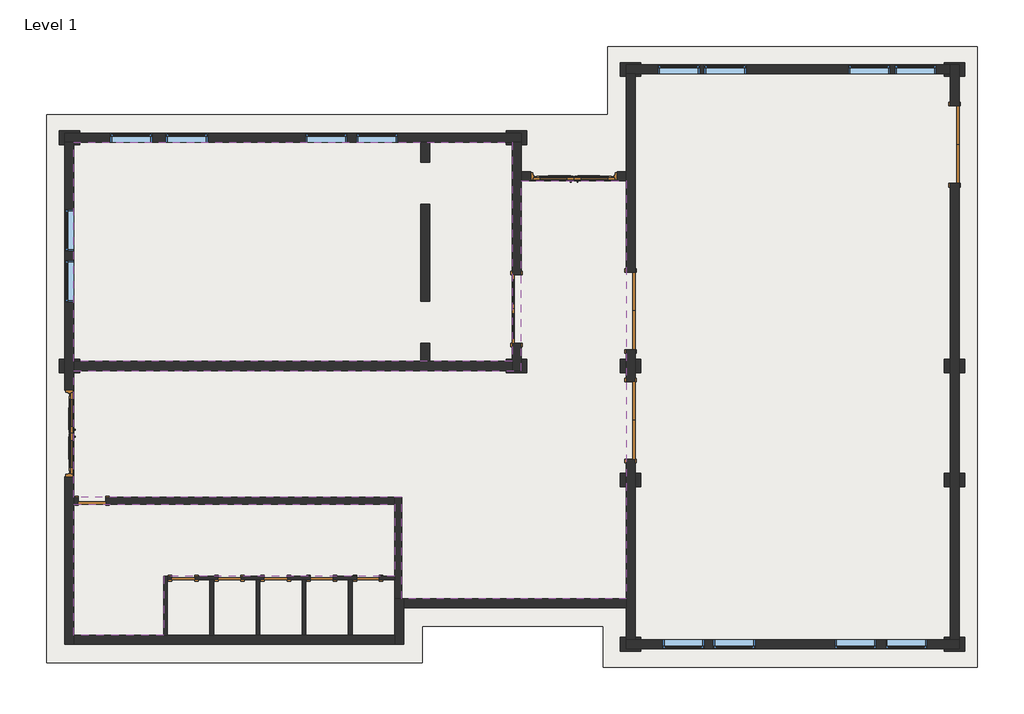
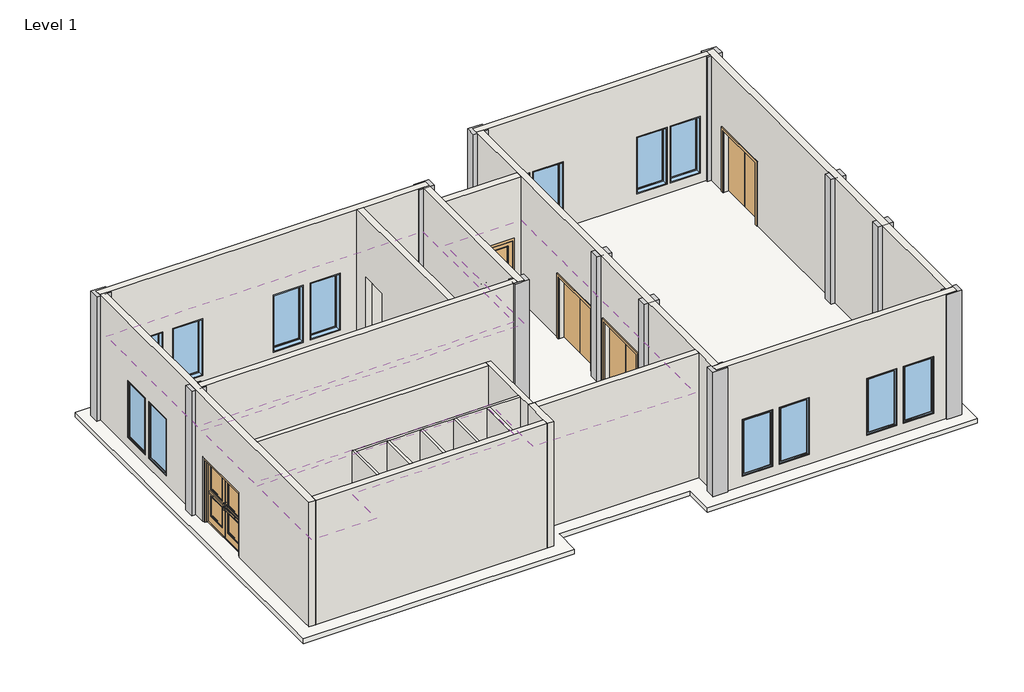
# One storey: 21 walls, 14 windows, 12 columns, 12 doors, 3 coverings, 1 slab.
"""IFC4 building model written with IfcOpenShell, lengths in millimetres."""

from ifc_helpers import new_model, si_unit, frame, origin, origin_with_axes, place, context, project, spatial, polyline, outline, extrude, faceted_brep, transform, mapped, element, save
from components import m_concrete_rectangular_column_300_x_450mm_c5d8a032, m_door_double_flush_panel_1700_x_2000mm_deeb3825, m_door_double_glass_1500_x_2000mm_770e8f3f, m_door_exterior_double_two_lite_1800_x_2000mm_59306b6d, m_door_exterior_double_two_lite_1800_x_2000mm_29a14667, m_door_exterior_double_two_lite_1800_x_2000mm_bafab08d, m_single_flush_0762_x_2032mm_f712f77f, m_single_flush_500_x_1800_40eb233f, m_fixed_0915_x_1830mm_5d6e8bc1

model = new_model("IFC4")

# Units and contexts
model_context = context("Model", 3, world=origin())
ifc_project = project(units=[si_unit("LENGTHUNIT", "METRE", prefix="MILLI")], contexts=[model_context])

# Site, building, storey
site = spatial("IfcSite", under=ifc_project)
building = spatial("IfcBuilding", under=site)
storey = spatial("IfcBuildingStorey", under=building, Name="Level 1", Elevation=0.0)

# Columns
placement = place(None, origin())
m_concrete_rectangular_column_300_x_450mm_shape = m_concrete_rectangular_column_300_x_450mm_c5d8a032(model_context)
element("IfcColumn", 1, ObjectType="M_Concrete-Rectangular-Column : 300 x 450mm", at=placement, inside=storey, context=model_context, shape_type="MappedRepresentation", body=[
    mapped(m_concrete_rectangular_column_300_x_450mm_shape, transform((-10540.3092365, 4276.1646731, 0.0), x_axis=(0.0, 1.0, 0.0), y_axis=(-1.0, 0.0, 0.0), z_axis=(0.0, 0.0, 1.0))),
])
element("IfcColumn", 2, ObjectType="M_Concrete-Rectangular-Column : 300 x 450mm", at=placement, inside=storey, context=model_context, shape_type="MappedRepresentation", body=[
    mapped(m_concrete_rectangular_column_300_x_450mm_shape, transform((-740.3092365, 4276.1646731, 0.0), x_axis=(0.0, 1.0, 0.0), y_axis=(-1.0, 0.0, 0.0), z_axis=(0.0, 0.0, 1.0))),
])
element("IfcColumn", 3, ObjectType="M_Concrete-Rectangular-Column : 300 x 450mm", at=placement, inside=storey, context=model_context, shape_type="MappedRepresentation", body=[
    mapped(m_concrete_rectangular_column_300_x_450mm_shape, transform((-10540.3092365, -723.8353269, 0.0), x_axis=(0.0, 1.0000000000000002, 0.0), y_axis=(-1.0000000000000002, 0.0, 0.0), z_axis=(0.0, 0.0, 1.0))),
])
element("IfcColumn", 4, ObjectType="M_Concrete-Rectangular-Column : 300 x 450mm", at=placement, inside=storey, context=model_context, shape_type="MappedRepresentation", body=[
    mapped(m_concrete_rectangular_column_300_x_450mm_shape, transform((-740.3092365, -723.8353269, 0.0), x_axis=(0.0, 1.0000000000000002, 0.0), y_axis=(-1.0000000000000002, 0.0, 0.0), z_axis=(0.0, 0.0, 1.0))),
])
element("IfcColumn", 5, ObjectType="M_Concrete-Rectangular-Column : 300 x 450mm", at=placement, inside=storey, context=model_context, shape_type="MappedRepresentation", body=[
    mapped(m_concrete_rectangular_column_300_x_450mm_shape, transform((1759.6907635, -6823.8353269, 0.0), x_axis=(0.0, 1.0000000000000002, 0.0), y_axis=(-1.0000000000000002, 0.0, 0.0), z_axis=(0.0, 0.0, 1.0))),
])
element("IfcColumn", 6, ObjectType="M_Concrete-Rectangular-Column : 300 x 450mm", at=placement, inside=storey, context=model_context, shape_type="MappedRepresentation", body=[
    mapped(m_concrete_rectangular_column_300_x_450mm_shape, transform((1759.6907635, -723.8353269, 0.0), x_axis=(0.0, 1.0000000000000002, 0.0), y_axis=(-1.0000000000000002, 0.0, 0.0), z_axis=(0.0, 0.0, 1.0))),
])
element("IfcColumn", 7, ObjectType="M_Concrete-Rectangular-Column : 300 x 450mm", at=placement, inside=storey, context=model_context, shape_type="MappedRepresentation", body=[
    mapped(m_concrete_rectangular_column_300_x_450mm_shape, transform((8859.6907635, -723.8353269, 0.0), x_axis=(0.0, 1.0000000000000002, 0.0), y_axis=(-1.0000000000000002, 0.0, 0.0), z_axis=(0.0, 0.0, 1.0))),
])
element("IfcColumn", 8, ObjectType="M_Concrete-Rectangular-Column : 300 x 450mm", at=placement, inside=storey, context=model_context, shape_type="MappedRepresentation", body=[
    mapped(m_concrete_rectangular_column_300_x_450mm_shape, transform((8859.6907635, -6823.8353269, 0.0), x_axis=(0.0, 1.0000000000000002, 0.0), y_axis=(-1.0000000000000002, 0.0, 0.0), z_axis=(0.0, 0.0, 1.0))),
])
element("IfcColumn", 9, ObjectType="M_Concrete-Rectangular-Column : 300 x 450mm", at=placement, inside=storey, context=model_context, shape_type="MappedRepresentation", body=[
    mapped(m_concrete_rectangular_column_300_x_450mm_shape, transform((8859.6907635, -3223.8353269, 0.0), x_axis=(0.0, 1.0000000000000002, 0.0), y_axis=(-1.0000000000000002, 0.0, 0.0), z_axis=(0.0, 0.0, 1.0))),
])
element("IfcColumn", 10, ObjectType="M_Concrete-Rectangular-Column : 300 x 450mm", at=placement, inside=storey, context=model_context, shape_type="MappedRepresentation", body=[
    mapped(m_concrete_rectangular_column_300_x_450mm_shape, transform((1759.6907635, -3223.8353269, 0.0), x_axis=(0.0, 1.0000000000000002, 0.0), y_axis=(-1.0000000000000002, 0.0, 0.0), z_axis=(0.0, 0.0, 1.0))),
])
element("IfcColumn", 11, ObjectType="M_Concrete-Rectangular-Column : 300 x 450mm", at=placement, inside=storey, context=model_context, shape_type="MappedRepresentation", body=[
    mapped(m_concrete_rectangular_column_300_x_450mm_shape, transform((1759.6907635, 5776.1646731, 0.0), x_axis=(0.0, 1.0000000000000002, 0.0), y_axis=(-1.0000000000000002, 0.0, 0.0), z_axis=(0.0, 0.0, 1.0))),
])
element("IfcColumn", 12, ObjectType="M_Concrete-Rectangular-Column : 300 x 450mm", at=placement, inside=storey, context=model_context, shape_type="MappedRepresentation", body=[
    mapped(m_concrete_rectangular_column_300_x_450mm_shape, transform((8859.6907635, 5776.1646731, 0.0), x_axis=(0.0, 1.0000000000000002, 0.0), y_axis=(-1.0000000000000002, 0.0, 0.0), z_axis=(0.0, 0.0, 1.0))),
])

# Coverings
element("IfcCovering", 13, ObjectType="600 x 600mm Grid", at=placement, inside=storey, context=model_context, shape_type="SweptSolid", body=[
    extrude(outline(polyline([(-10440.3092365, 4176.1646731), (-840.3092365, 4176.1646731), (-840.3092365, -623.8353269), (-10440.3092365, -623.8353269), (-10440.3092365, 4176.1646731)])), frame((0.0, 0.0, 2600.0), z_axis=(0.0, 0.0, 1.0), x_axis=(1.0, 0.0, 0.0)), (0.0, 0.0, 1.0), 52.0),
])
element("IfcCovering", 14, ObjectType="600 x 600mm Grid", at=placement, inside=storey, context=model_context, shape_type="SweptSolid", body=[
    extrude(outline(polyline([(-10440.3092365, -823.8353269), (-640.3092365, -823.8353269), (-640.3092365, 3331.1646731), (1659.6907635, 3331.1646731), (1659.6907635, -5823.8353269), (-3261.8092365, -5823.8353269), (-3261.8092365, -3599.1353269), (-10440.3092365, -3599.1353269), (-10440.3092365, -823.8353269)])), frame((0.0, 0.0, 2600.0), z_axis=(0.0, 0.0, 1.0), x_axis=(1.0, 0.0, 0.0)), (0.0, 0.0, 1.0), 52.0),
])
element("IfcCovering", 15, ObjectType="600 x 600mm Grid", at=placement, inside=storey, context=model_context, shape_type="SweptSolid", body=[
    extrude(outline(polyline([(-8472.3092365, -6623.8353269), (-10440.3092365, -6623.8353269), (-10440.3092365, -3749.1353269), (-3411.8092365, -3749.1353269), (-3411.8092365, -5334.3353269), (-8472.3092365, -5334.3353269), (-8472.3092365, -6623.8353269)])), frame((0.0, 0.0, 2600.0), z_axis=(0.0, 0.0, 1.0), x_axis=(1.0, 0.0, 0.0)), (0.0, 0.0, 1.0), 52.0),
])

# Doors
m_door_double_flush_panel_1700_x_2000mm_shape = m_door_double_flush_panel_1700_x_2000mm_deeb3825(model_context)
element("IfcDoor", 16, ObjectType="M_Door-Double-Flush_Panel : 1700 x 2000mm", at=placement, inside=storey, context=model_context, shape_type="MappedRepresentation", body=[
    mapped(m_door_double_flush_panel_1700_x_2000mm_shape, transform((1759.6907635, -1918.8353269, 0.0), x_axis=(0.0, -1.0, 0.0), y_axis=(1.0, 0.0, 0.0), z_axis=(0.0, 0.0, 1.0))),
])
element("IfcDoor", 17, ObjectType="M_Door-Double-Flush_Panel : 1700 x 2000mm", at=placement, inside=storey, context=model_context, shape_type="MappedRepresentation", body=[
    mapped(m_door_double_flush_panel_1700_x_2000mm_shape, transform((1759.6907635, 481.1646731, 0.0), x_axis=(0.0, -1.0, 0.0), y_axis=(1.0, 0.0, 0.0), z_axis=(0.0, 0.0, 1.0))),
])
element("IfcDoor", 18, ObjectType="M_Door-Double-Flush_Panel : 1700 x 2000mm", at=placement, inside=storey, context=model_context, shape_type="MappedRepresentation", body=[
    mapped(m_door_double_flush_panel_1700_x_2000mm_shape, transform((8859.6907635, 4126.1646731, 0.0), x_axis=(0.0, -1.0, 0.0), y_axis=(1.0, 0.0, 0.0), z_axis=(0.0, 0.0, 1.0))),
])
m_door_double_glass_1500_x_2000mm_shape = m_door_double_glass_1500_x_2000mm_770e8f3f(model_context)
element("IfcDoor", 19, ObjectType="M_Door-Double-Glass : 1500 x 2000mm", at=placement, inside=storey, context=model_context, shape_type="MappedRepresentation", body=[
    mapped(m_door_double_glass_1500_x_2000mm_shape, transform((-737.9279865, 526.1646731, 0.0), x_axis=(0.0, 1.0, 0.0), y_axis=(-1.0, 0.0, 0.0), z_axis=(0.0, 0.0, 1.0))),
])
m_door_exterior_double_two_lite_1800_x_2000mm_shape = m_door_exterior_double_two_lite_1800_x_2000mm_59306b6d(model_context)
m_door_exterior_double_two_lite_1800_x_2000mm_2_shape = m_door_exterior_double_two_lite_1800_x_2000mm_29a14667(model_context)
m_door_exterior_double_two_lite_1800_x_2000mm_3_shape = m_door_exterior_double_two_lite_1800_x_2000mm_bafab08d(model_context)
element("IfcDoor", 20, ObjectType="M_Door-Exterior-Double-Two_Lite : 1800 x 2000mm", at=placement, inside=storey, context=model_context, shape_type="MappedRepresentation", body=[
    mapped(m_door_exterior_double_two_lite_1800_x_2000mm_shape, transform((-10546.6592365, -2201.9603269, 0.0), x_axis=(0.0, -1.0, 0.0), y_axis=(1.0, 0.0, 0.0), z_axis=(0.0, 0.0, 1.0))),
    mapped(m_door_exterior_double_two_lite_1800_x_2000mm_2_shape, transform((-10546.6592365, -2201.9603269, 0.0), x_axis=(0.0, -1.0, 0.0), y_axis=(1.0, 0.0, 0.0), z_axis=(0.0, 0.0, 1.0))),
    mapped(m_door_exterior_double_two_lite_1800_x_2000mm_3_shape, transform((-10546.6592365, -2201.9603269, 0.0), x_axis=(0.0, -1.0, 0.0), y_axis=(1.0, 0.0, 0.0), z_axis=(0.0, 0.0, 1.0))),
])
element("IfcDoor", 21, ObjectType="M_Door-Exterior-Double-Two_Lite : 1800 x 2000mm", at=placement, inside=storey, context=model_context, shape_type="MappedRepresentation", body=[
    mapped(m_door_exterior_double_two_lite_1800_x_2000mm_shape, transform((519.2157635, 3437.5146731, 0.0), x_axis=(-1.0, 0.0, 0.0), y_axis=(0.0, -1.0, 0.0), z_axis=(0.0, 0.0, 1.0))),
    mapped(m_door_exterior_double_two_lite_1800_x_2000mm_2_shape, transform((519.2157635, 3437.5146731, 0.0), x_axis=(-1.0, 0.0, 0.0), y_axis=(0.0, -1.0, 0.0), z_axis=(0.0, 0.0, 1.0))),
    mapped(m_door_exterior_double_two_lite_1800_x_2000mm_3_shape, transform((519.2157635, 3437.5146731, 0.0), x_axis=(-1.0, 0.0, 0.0), y_axis=(0.0, -1.0, 0.0), z_axis=(0.0, 0.0, 1.0))),
])
m_single_flush_0762_x_2032mm_shape = m_single_flush_0762_x_2032mm_f712f77f(model_context)
element("IfcDoor", 22, ObjectType="M_Single-Flush : 0762 x 2032mm", at=placement, inside=storey, context=model_context, shape_type="MappedRepresentation", body=[
    mapped(m_single_flush_0762_x_2032mm_shape, transform((-10040.3092365, -3674.1353269, 0.0), x_axis=(-1.0, 0.0, 0.0), y_axis=(0.0, -1.0, 0.0), z_axis=(0.0, 0.0, 1.0))),
])
m_single_flush_500_x_1800_shape = m_single_flush_500_x_1800_40eb233f(model_context)
element("IfcDoor", 23, ObjectType="M_Single-Flush : 500 x 1800", at=placement, inside=storey, context=model_context, shape_type="MappedRepresentation", body=[
    mapped(m_single_flush_500_x_1800_shape, transform((-3994.9092365, -5373.8353269, 0.0), x_axis=(-1.0, 0.0, 0.0), y_axis=(0.0, -1.0, 0.0), z_axis=(0.0, 0.0, 1.0))),
])
element("IfcDoor", 24, ObjectType="M_Single-Flush : 500 x 1800", at=placement, inside=storey, context=model_context, shape_type="MappedRepresentation", body=[
    mapped(m_single_flush_500_x_1800_shape, transform((-5007.0092365, -5373.8353269, 0.0), x_axis=(-1.0, 0.0, 0.0), y_axis=(0.0, -1.0, 0.0), z_axis=(0.0, 0.0, 1.0))),
])
element("IfcDoor", 25, ObjectType="M_Single-Flush : 500 x 1800", at=placement, inside=storey, context=model_context, shape_type="MappedRepresentation", body=[
    mapped(m_single_flush_500_x_1800_shape, transform((-6019.1092365, -5373.8353269, 0.0), x_axis=(-1.0, 0.0, 0.0), y_axis=(0.0, -1.0, 0.0), z_axis=(0.0, 0.0, 1.0))),
])
element("IfcDoor", 26, ObjectType="M_Single-Flush : 500 x 1800", at=placement, inside=storey, context=model_context, shape_type="MappedRepresentation", body=[
    mapped(m_single_flush_500_x_1800_shape, transform((-7031.2092365, -5373.8353269, 0.0), x_axis=(-1.0, 0.0, 0.0), y_axis=(0.0, -1.0, 0.0), z_axis=(0.0, 0.0, 1.0))),
])
element("IfcDoor", 27, ObjectType="M_Single-Flush : 500 x 1800", at=placement, inside=storey, context=model_context, shape_type="MappedRepresentation", body=[
    mapped(m_single_flush_500_x_1800_shape, transform((-8043.3092365, -5373.8353269, 0.0), x_axis=(-1.0, 0.0, 0.0), y_axis=(0.0, -1.0, 0.0), z_axis=(0.0, 0.0, 1.0))),
])

# Slab
element("IfcSlab", 28, ObjectType="Generic 150mm", at=placement, inside=storey, context=model_context, shape_type="SweptSolid", body=[
    extrude(outline(polyline([(9359.6907635, -7323.8353269), (1159.6907635, -7323.8353269), (1159.6907635, -6423.8353269), (-2811.8092365, -6423.8353269), (-2811.8092365, -7223.8353269), (-11040.3092365, -7223.8353269), (-11040.3092365, 4776.1646731), (1259.6907635, 4776.1646731), (1259.6907635, 6276.1646731), (9359.6907635, 6276.1646731), (9359.6907635, -7323.8353269)])), frame((0.0, 0.0, -150.0), z_axis=(0.0, 0.0, 1.0), x_axis=(1.0, 0.0, 0.0)), (0.0, 0.0, 1.0), 150.0),
])

# Walls
element("IfcWall", 29, ObjectType="Generic - 150", at=placement, inside=storey, context=model_context, shape_type="Brep", body=[
    faceted_brep([(-3261.8092365, -5823.8353269, 0.0), (-3261.8092365, -3599.1353269, 0.0), (-3261.8092365, -3599.1353269, 4000.0), (-3261.8092365, -5823.8353269, 4000.0), (-3411.8092365, -5823.8353269, 0.0), (-3411.8092365, -5823.8353269, 4000.0), (-3411.8092365, -5413.3353269, 4000.0), (-3411.8092365, -5334.3353269, 4000.0), (-3411.8092365, -3749.1353269, 4000.0), (-3411.8092365, -3599.1353269, 4000.0), (-3411.8092365, -3599.1353269, 0.0), (-3411.8092365, -3749.1353269, 0.0), (-3411.8092365, -5334.3353269, 0.0), (-3411.8092365, -5413.3353269, 0.0)], [[[0, 1, 2, 3]], [[4, 5, 6, 7, 8, 9, 10, 11, 12, 13]], [[1, 0, 4, 13, 12, 11, 10]], [[3, 2, 9, 8, 7, 6, 5]], [[2, 1, 10, 9]], [[0, 3, 5, 4]]]),
])
element("IfcWall", 30, ObjectType="Generic - 150", at=placement, inside=storey, context=model_context, shape_type="SweptSolid", body=[
    extrude(outline(polyline([(0.0, -10440.3092365), (0.0, -10340.3092365), (2032.0, -10340.3092365), (2032.0, -9740.3092365), (0.0, -9740.3092365), (0.0, -3411.8092365), (4000.0, -3411.8092365), (4000.0, -10440.3092365), (0.0, -10440.3092365)])), frame((0.0, -3749.1353269, 0.0), z_axis=(0.0, 1.0, 0.0), x_axis=(0.0, 0.0, 1.0)), (0.0, 0.0, 1.0), 150.0),
])
element("IfcWall", 31, ObjectType="Generic - 200mm", at=placement, inside=storey, context=model_context, shape_type="Brep", body=[
    faceted_brep([(-10640.3092365, 4176.1646731, 0.0), (-10440.3092365, 4176.1646731, 0.0), (-2840.3092365, 4176.1646731, 0.0), (-2640.3092365, 4176.1646731, 0.0), (-840.3092365, 4176.1646731, 0.0), (-640.3092365, 4176.1646731, 0.0), (-640.3092365, 4176.1646731, 4000.0), (-840.3092365, 4176.1646731, 4000.0), (-2640.3092365, 4176.1646731, 4000.0), (-2840.3092365, 4176.1646731, 4000.0), (-10440.3092365, 4176.1646731, 4000.0), (-10640.3092365, 4176.1646731, 4000.0), (-9640.3092365, 4176.1646731, 305.0), (-9640.3092365, 4176.1646731, 2135.0), (-8725.3092365, 4176.1646731, 2135.0), (-8725.3092365, 4176.1646731, 305.0), (-8425.3092365, 4176.1646731, 305.0), (-8425.3092365, 4176.1646731, 2135.0), (-7510.3092365, 4176.1646731, 2135.0), (-7510.3092365, 4176.1646731, 305.0), (-4255.3092365, 4176.1646731, 305.0), (-4255.3092365, 4176.1646731, 2135.0), (-3340.3092365, 4176.1646731, 2135.0), (-3340.3092365, 4176.1646731, 305.0), (-5370.3092365, 4176.1646731, 305.0), (-5370.3092365, 4176.1646731, 2135.0), (-4455.3092365, 4176.1646731, 2135.0), (-4455.3092365, 4176.1646731, 305.0), (-10640.3092365, 4376.1646731, 0.0), (-10640.3092365, 4376.1646731, 4000.0), (-640.3092365, 4376.1646731, 4000.0), (-640.3092365, 4376.1646731, 0.0), (-9640.3092365, 4376.1646731, 305.0), (-8725.3092365, 4376.1646731, 305.0), (-8725.3092365, 4376.1646731, 2135.0), (-9640.3092365, 4376.1646731, 2135.0), (-8425.3092365, 4376.1646731, 305.0), (-7510.3092365, 4376.1646731, 305.0), (-7510.3092365, 4376.1646731, 2135.0), (-8425.3092365, 4376.1646731, 2135.0), (-4255.3092365, 4376.1646731, 305.0), (-3340.3092365, 4376.1646731, 305.0), (-3340.3092365, 4376.1646731, 2135.0), (-4255.3092365, 4376.1646731, 2135.0), (-5370.3092365, 4376.1646731, 305.0), (-4455.3092365, 4376.1646731, 305.0), (-4455.3092365, 4376.1646731, 2135.0), (-5370.3092365, 4376.1646731, 2135.0)], [[[0, 1, 2, 3, 4, 5, 6, 7, 8, 9, 10, 11], [12, 13, 14, 15], [16, 17, 18, 19], [20, 21, 22, 23], [24, 25, 26, 27]], [[28, 29, 30, 31], [32, 33, 34, 35], [36, 37, 38, 39], [40, 41, 42, 43], [44, 45, 46, 47]], [[5, 4, 3, 2, 1, 0, 28, 31]], [[11, 10, 9, 8, 7, 6, 30, 29]], [[6, 5, 31, 30]], [[0, 11, 29, 28]], [[13, 12, 32, 35]], [[14, 13, 35, 34]], [[15, 14, 34, 33]], [[12, 15, 33, 32]], [[17, 16, 36, 39]], [[18, 17, 39, 38]], [[19, 18, 38, 37]], [[16, 19, 37, 36]], [[21, 20, 40, 43]], [[22, 21, 43, 42]], [[23, 22, 42, 41]], [[20, 23, 41, 40]], [[25, 24, 44, 47]], [[26, 25, 47, 46]], [[27, 26, 46, 45]], [[24, 27, 45, 44]]]),
])
element("IfcWall", 32, ObjectType="Generic - 200mm", at=placement, inside=storey, context=model_context, shape_type="Brep", body=[
    faceted_brep([(-840.3092365, 4176.1646731, 0.0), (-840.3092365, 1276.1646731, 0.0), (-840.3092365, 1276.1646731, 2000.0), (-840.3092365, -223.8353269, 2000.0), (-840.3092365, -223.8353269, 0.0), (-840.3092365, -623.8353269, 0.0), (-840.3092365, -823.8353269, 0.0), (-840.3092365, -823.8353269, 4000.0), (-840.3092365, -623.8353269, 4000.0), (-840.3092365, 4176.1646731, 4000.0), (-640.3092365, 1276.1646731, 2000.0), (-640.3092365, 1276.1646731, 0.0), (-640.3092365, 3331.1646731, 0.0), (-640.3092365, 3531.1646731, 0.0), (-640.3092365, 4176.1646731, 0.0), (-640.3092365, 4176.1646731, 4000.0), (-640.3092365, 3531.1646731, 4000.0), (-640.3092365, 3331.1646731, 4000.0), (-640.3092365, -823.8353269, 4000.0), (-640.3092365, -823.8353269, 0.0), (-640.3092365, -223.8353269, 0.0), (-640.3092365, -223.8353269, 2000.0)], [[[0, 1, 2, 3, 4, 5, 6, 7, 8, 9]], [[10, 11, 12, 13, 14, 15, 16, 17, 18, 19, 20, 21]], [[20, 19, 6, 5, 4]], [[14, 13, 12, 11, 1, 0]], [[9, 8, 7, 18, 17, 16, 15]], [[0, 9, 15, 14]], [[7, 6, 19, 18]], [[2, 1, 11, 10]], [[3, 2, 10, 21]], [[4, 3, 21, 20]]]),
])
element("IfcWall", 33, ObjectType="Generic - 200mm", at=placement, inside=storey, context=model_context, shape_type="Brep", body=[
    faceted_brep([(-840.3092365, -623.8353269, 0.0), (-2640.3092365, -623.8353269, 0.0), (-2840.3092365, -623.8353269, 0.0), (-10440.3092365, -623.8353269, 0.0), (-10440.3092365, -623.8353269, 4000.0), (-2840.3092365, -623.8353269, 4000.0), (-2640.3092365, -623.8353269, 4000.0), (-840.3092365, -623.8353269, 4000.0), (-840.3092365, -823.8353269, 0.0), (-840.3092365, -823.8353269, 4000.0), (-10440.3092365, -823.8353269, 4000.0), (-10440.3092365, -823.8353269, 0.0)], [[[0, 1, 2, 3, 4, 5, 6, 7]], [[8, 9, 10, 11]], [[3, 2, 1, 0, 8, 11]], [[7, 6, 5, 4, 10, 9]], [[0, 7, 9, 8]], [[4, 3, 11, 10]]]),
])
element("IfcWall", 34, ObjectType="Generic - 200mm", at=placement, inside=storey, context=model_context, shape_type="Brep", body=[
    faceted_brep([(-10440.3092365, 4176.1646731, 4000.0), (-10440.3092365, -623.8353269, 4000.0), (-10440.3092365, -823.8353269, 4000.0), (-10440.3092365, -3599.1353269, 4000.0), (-10440.3092365, -3749.1353269, 4000.0), (-10440.3092365, -6623.8353269, 4000.0), (-10440.3092365, -6823.8353269, 4000.0), (-10440.3092365, -6823.8353269, 0.0), (-10440.3092365, -6623.8353269, 0.0), (-10440.3092365, -3749.1353269, 0.0), (-10440.3092365, -3599.1353269, 0.0), (-10440.3092365, -3151.9603269, 0.0), (-10440.3092365, -3151.9603269, 2100.0), (-10440.3092365, -1251.9603269, 2100.0), (-10440.3092365, -1251.9603269, 0.0), (-10440.3092365, -823.8353269, 0.0), (-10440.3092365, -623.8353269, 0.0), (-10440.3092365, 4176.1646731, 0.0), (-10440.3092365, 676.1646731, 305.0), (-10440.3092365, 676.1646731, 2135.0), (-10440.3092365, 1591.1646731, 2135.0), (-10440.3092365, 1591.1646731, 305.0), (-10440.3092365, 1791.1646731, 305.0), (-10440.3092365, 1791.1646731, 2135.0), (-10440.3092365, 2706.1646731, 2135.0), (-10440.3092365, 2706.1646731, 305.0), (-10640.3092365, -6823.8353269, 4000.0), (-10640.3092365, 4176.1646731, 4000.0), (-10640.3092365, 4176.1646731, 0.0), (-10640.3092365, -1251.9603269, 0.0), (-10640.3092365, -1251.9603269, 2100.0), (-10640.3092365, -3151.9603269, 2100.0), (-10640.3092365, -3151.9603269, 0.0), (-10640.3092365, -6823.8353269, 0.0), (-10640.3092365, 676.1646731, 305.0), (-10640.3092365, 1591.1646731, 305.0), (-10640.3092365, 1591.1646731, 2135.0), (-10640.3092365, 676.1646731, 2135.0), (-10640.3092365, 1791.1646731, 305.0), (-10640.3092365, 2706.1646731, 305.0), (-10640.3092365, 2706.1646731, 2135.0), (-10640.3092365, 1791.1646731, 2135.0)], [[[0, 1, 2, 3, 4, 5, 6, 7, 8, 9, 10, 11, 12, 13, 14, 15, 16, 17], [18, 19, 20, 21], [22, 23, 24, 25]], [[26, 27, 28, 29, 30, 31, 32, 33], [34, 35, 36, 37], [38, 39, 40, 41]], [[28, 17, 16, 15, 14, 29]], [[7, 33, 32, 11, 10, 9, 8]], [[6, 5, 4, 3, 2, 1, 0, 27, 26]], [[0, 17, 28, 27]], [[7, 6, 26, 33]], [[31, 12, 11, 32]], [[12, 31, 30, 13]], [[13, 30, 29, 14]], [[19, 18, 34, 37]], [[20, 19, 37, 36]], [[21, 20, 36, 35]], [[18, 21, 35, 34]], [[23, 22, 38, 41]], [[24, 23, 41, 40]], [[25, 24, 40, 39]], [[22, 25, 39, 38]]]),
])
element("IfcWall", 35, ObjectType="Generic - 200mm", at=placement, inside=storey, context=model_context, shape_type="Brep", body=[
    faceted_brep([(-10440.3092365, -6823.8353269, 0.0), (-3411.8092365, -6823.8353269, 0.0), (-3411.8092365, -6823.8353269, 4000.0), (-10440.3092365, -6823.8353269, 4000.0), (-10440.3092365, -6623.8353269, 0.0), (-10440.3092365, -6623.8353269, 4000.0), (-8472.3092365, -6623.8353269, 4000.0), (-8393.3092365, -6623.8353269, 4000.0), (-7460.2092365, -6623.8353269, 4000.0), (-7381.2092365, -6623.8353269, 4000.0), (-6448.1092365, -6623.8353269, 4000.0), (-6369.1092365, -6623.8353269, 4000.0), (-5436.0092365, -6623.8353269, 4000.0), (-5357.0092365, -6623.8353269, 4000.0), (-4423.9092365, -6623.8353269, 4000.0), (-4344.9092365, -6623.8353269, 4000.0), (-3411.8092365, -6623.8353269, 4000.0), (-3411.8092365, -6623.8353269, 0.0), (-4344.9092365, -6623.8353269, 0.0), (-4423.9092365, -6623.8353269, 0.0), (-5357.0092365, -6623.8353269, 0.0), (-5436.0092365, -6623.8353269, 0.0), (-6369.1092365, -6623.8353269, 0.0), (-6448.1092365, -6623.8353269, 0.0), (-7381.2092365, -6623.8353269, 0.0), (-7460.2092365, -6623.8353269, 0.0), (-8393.3092365, -6623.8353269, 0.0), (-8472.3092365, -6623.8353269, 0.0)], [[[0, 1, 2, 3]], [[4, 5, 6, 7, 8, 9, 10, 11, 12, 13, 14, 15, 16, 17, 18, 19, 20, 21, 22, 23, 24, 25, 26, 27]], [[1, 0, 4, 27, 26, 25, 24, 23, 22, 21, 20, 19, 18, 17]], [[3, 2, 16, 15, 14, 13, 12, 11, 10, 9, 8, 7, 6, 5]], [[0, 3, 5, 4]], [[2, 1, 17, 16]]]),
])
element("IfcWall", 36, ObjectType="Generic - 200mm", at=placement, inside=storey, context=model_context, shape_type="Brep", body=[
    faceted_brep([(-3211.8092365, -6823.8353269, 0.0), (-3211.8092365, -6023.8353269, 0.0), (-3211.8092365, -5823.8353269, 0.0), (-3211.8092365, -5823.8353269, 4000.0), (-3211.8092365, -6023.8353269, 4000.0), (-3211.8092365, -6823.8353269, 4000.0), (-3411.8092365, -6823.8353269, 0.0), (-3411.8092365, -6823.8353269, 4000.0), (-3411.8092365, -6623.8353269, 4000.0), (-3411.8092365, -5823.8353269, 4000.0), (-3411.8092365, -5823.8353269, 0.0), (-3411.8092365, -6623.8353269, 0.0), (-3261.8092365, -5823.8353269, 0.0), (-3261.8092365, -5823.8353269, 4000.0)], [[[0, 1, 2, 3, 4, 5]], [[6, 7, 8, 9, 10, 11]], [[2, 1, 0, 6, 11, 10, 12]], [[5, 4, 3, 13, 9, 8, 7]], [[0, 5, 7, 6]], [[3, 2, 12, 10, 9, 13]]]),
])
element("IfcWall", 37, ObjectType="Generic - 200mm", at=placement, inside=storey, context=model_context, shape_type="SweptSolid", body=[
    extrude(outline(polyline([(1659.6907635, -6023.8353269), (-3211.8092365, -6023.8353269), (-3211.8092365, -5823.8353269), (1659.6907635, -5823.8353269), (1659.6907635, -6023.8353269)])), origin_with_axes(), (0.0, 0.0, 1.0), 4000.0),
])
element("IfcWall", 38, ObjectType="Generic - 200mm", at=placement, inside=storey, context=model_context, shape_type="Brep", body=[
    faceted_brep([(1659.6907635, -6923.8353269, 0.0), (8959.6907635, -6923.8353269, 0.0), (8959.6907635, -6923.8353269, 4000.0), (1659.6907635, -6923.8353269, 4000.0), (3374.6907635, -6923.8353269, 305.0), (2459.6907635, -6923.8353269, 305.0), (2459.6907635, -6923.8353269, 2135.0), (3374.6907635, -6923.8353269, 2135.0), (4489.6907635, -6923.8353269, 305.0), (3574.6907635, -6923.8353269, 305.0), (3574.6907635, -6923.8353269, 2135.0), (4489.6907635, -6923.8353269, 2135.0), (8259.6907635, -6923.8353269, 305.0), (7344.6907635, -6923.8353269, 305.0), (7344.6907635, -6923.8353269, 2135.0), (8259.6907635, -6923.8353269, 2135.0), (7144.6907635, -6923.8353269, 305.0), (6229.6907635, -6923.8353269, 305.0), (6229.6907635, -6923.8353269, 2135.0), (7144.6907635, -6923.8353269, 2135.0), (1659.6907635, -6723.8353269, 0.0), (1659.6907635, -6723.8353269, 4000.0), (1859.6907635, -6723.8353269, 4000.0), (8759.6907635, -6723.8353269, 4000.0), (8959.6907635, -6723.8353269, 4000.0), (8959.6907635, -6723.8353269, 0.0), (8759.6907635, -6723.8353269, 0.0), (1859.6907635, -6723.8353269, 0.0), (3374.6907635, -6723.8353269, 305.0), (3374.6907635, -6723.8353269, 2135.0), (2459.6907635, -6723.8353269, 2135.0), (2459.6907635, -6723.8353269, 305.0), (4489.6907635, -6723.8353269, 305.0), (4489.6907635, -6723.8353269, 2135.0), (3574.6907635, -6723.8353269, 2135.0), (3574.6907635, -6723.8353269, 305.0), (8259.6907635, -6723.8353269, 305.0), (8259.6907635, -6723.8353269, 2135.0), (7344.6907635, -6723.8353269, 2135.0), (7344.6907635, -6723.8353269, 305.0), (7144.6907635, -6723.8353269, 305.0), (7144.6907635, -6723.8353269, 2135.0), (6229.6907635, -6723.8353269, 2135.0), (6229.6907635, -6723.8353269, 305.0)], [[[0, 1, 2, 3], [4, 5, 6, 7], [8, 9, 10, 11], [12, 13, 14, 15], [16, 17, 18, 19]], [[20, 21, 22, 23, 24, 25, 26, 27], [28, 29, 30, 31], [32, 33, 34, 35], [36, 37, 38, 39], [40, 41, 42, 43]], [[1, 0, 20, 27, 26, 25]], [[3, 2, 24, 23, 22, 21]], [[0, 3, 21, 20]], [[2, 1, 25, 24]], [[29, 28, 4, 7]], [[30, 29, 7, 6]], [[31, 30, 6, 5]], [[28, 31, 5, 4]], [[33, 32, 8, 11]], [[34, 33, 11, 10]], [[35, 34, 10, 9]], [[32, 35, 9, 8]], [[37, 36, 12, 15]], [[38, 37, 15, 14]], [[39, 38, 14, 13]], [[36, 39, 13, 12]], [[41, 40, 16, 19]], [[42, 41, 19, 18]], [[43, 42, 18, 17]], [[40, 43, 17, 16]]]),
])
element("IfcWall", 39, ObjectType="Generic - 200mm", at=placement, inside=storey, context=model_context, shape_type="Brep", body=[
    faceted_brep([(8959.6907635, 5876.1646731, 4000.0), (8959.6907635, -6723.8353269, 4000.0), (8959.6907635, -6723.8353269, 0.0), (8959.6907635, 3276.1646731, 0.0), (8959.6907635, 3276.1646731, 2000.0), (8959.6907635, 4976.1646731, 2000.0), (8959.6907635, 4976.1646731, 0.0), (8959.6907635, 5876.1646731, 0.0), (8759.6907635, -6723.8353269, 4000.0), (8759.6907635, 5676.1646731, 4000.0), (8759.6907635, 5876.1646731, 4000.0), (8759.6907635, 5876.1646731, 0.0), (8759.6907635, 5676.1646731, 0.0), (8759.6907635, 4976.1646731, 0.0), (8759.6907635, 4976.1646731, 2000.0), (8759.6907635, 3276.1646731, 2000.0), (8759.6907635, 3276.1646731, 0.0), (8759.6907635, -6723.8353269, 0.0)], [[[0, 1, 2, 3, 4, 5, 6, 7]], [[8, 9, 10, 11, 12, 13, 14, 15, 16, 17]], [[2, 17, 16, 3]], [[11, 7, 6, 13, 12]], [[1, 0, 10, 9, 8]], [[2, 1, 8, 17]], [[0, 7, 11, 10]], [[15, 4, 3, 16]], [[4, 15, 14, 5]], [[5, 14, 13, 6]]]),
])
element("IfcWall", 40, ObjectType="Generic - 200mm", at=placement, inside=storey, context=model_context, shape_type="Brep", body=[
    faceted_brep([(8759.6907635, 5876.1646731, 0.0), (1659.6907635, 5876.1646731, 0.0), (1659.6907635, 5876.1646731, 4000.0), (8759.6907635, 5876.1646731, 4000.0), (2359.6907635, 5876.1646731, 305.0), (3274.6907635, 5876.1646731, 305.0), (3274.6907635, 5876.1646731, 2135.0), (2359.6907635, 5876.1646731, 2135.0), (3374.6907635, 5876.1646731, 305.0), (4289.6907635, 5876.1646731, 305.0), (4289.6907635, 5876.1646731, 2135.0), (3374.6907635, 5876.1646731, 2135.0), (7544.6907635, 5876.1646731, 305.0), (8459.6907635, 5876.1646731, 305.0), (8459.6907635, 5876.1646731, 2135.0), (7544.6907635, 5876.1646731, 2135.0), (6529.6907635, 5876.1646731, 305.0), (7444.6907635, 5876.1646731, 305.0), (7444.6907635, 5876.1646731, 2135.0), (6529.6907635, 5876.1646731, 2135.0), (8759.6907635, 5676.1646731, 0.0), (8759.6907635, 5676.1646731, 4000.0), (1859.6907635, 5676.1646731, 4000.0), (1659.6907635, 5676.1646731, 4000.0), (1659.6907635, 5676.1646731, 0.0), (1859.6907635, 5676.1646731, 0.0), (2359.6907635, 5676.1646731, 305.0), (2359.6907635, 5676.1646731, 2135.0), (3274.6907635, 5676.1646731, 2135.0), (3274.6907635, 5676.1646731, 305.0), (3374.6907635, 5676.1646731, 305.0), (3374.6907635, 5676.1646731, 2135.0), (4289.6907635, 5676.1646731, 2135.0), (4289.6907635, 5676.1646731, 305.0), (7544.6907635, 5676.1646731, 305.0), (7544.6907635, 5676.1646731, 2135.0), (8459.6907635, 5676.1646731, 2135.0), (8459.6907635, 5676.1646731, 305.0), (6529.6907635, 5676.1646731, 305.0), (6529.6907635, 5676.1646731, 2135.0), (7444.6907635, 5676.1646731, 2135.0), (7444.6907635, 5676.1646731, 305.0)], [[[0, 1, 2, 3], [4, 5, 6, 7], [8, 9, 10, 11], [12, 13, 14, 15], [16, 17, 18, 19]], [[20, 21, 22, 23, 24, 25], [26, 27, 28, 29], [30, 31, 32, 33], [34, 35, 36, 37], [38, 39, 40, 41]], [[1, 0, 20, 25, 24]], [[3, 2, 23, 22, 21]], [[0, 3, 21, 20]], [[2, 1, 24, 23]], [[27, 26, 4, 7]], [[28, 27, 7, 6]], [[29, 28, 6, 5]], [[26, 29, 5, 4]], [[31, 30, 8, 11]], [[32, 31, 11, 10]], [[33, 32, 10, 9]], [[30, 33, 9, 8]], [[35, 34, 12, 15]], [[36, 35, 15, 14]], [[37, 36, 14, 13]], [[34, 37, 13, 12]], [[39, 38, 16, 19]], [[40, 39, 19, 18]], [[41, 40, 18, 17]], [[38, 41, 17, 16]]]),
])
element("IfcWall", 41, ObjectType="Generic - 200mm", at=placement, inside=storey, context=model_context, shape_type="Brep", body=[
    faceted_brep([(1659.6907635, -6723.8353269, 4000.0), (1659.6907635, -6023.8353269, 4000.0), (1659.6907635, -5823.8353269, 4000.0), (1659.6907635, 3331.1646731, 4000.0), (1659.6907635, 3531.1646731, 4000.0), (1659.6907635, 5676.1646731, 4000.0), (1659.6907635, 5676.1646731, 0.0), (1659.6907635, 3531.1646731, 0.0), (1659.6907635, 3331.1646731, 0.0), (1659.6907635, 1331.1646731, 0.0), (1659.6907635, 1331.1646731, 2000.0), (1659.6907635, -368.8353269, 2000.0), (1659.6907635, -368.8353269, 0.0), (1659.6907635, -1068.8353269, 0.0), (1659.6907635, -1068.8353269, 2000.0), (1659.6907635, -2768.8353269, 2000.0), (1659.6907635, -2768.8353269, 0.0), (1659.6907635, -5823.8353269, 0.0), (1659.6907635, -6023.8353269, 0.0), (1659.6907635, -6723.8353269, 0.0), (1859.6907635, 5676.1646731, 4000.0), (1859.6907635, -6723.8353269, 4000.0), (1859.6907635, -6723.8353269, 0.0), (1859.6907635, -2768.8353269, 0.0), (1859.6907635, -2768.8353269, 2000.0), (1859.6907635, -1068.8353269, 2000.0), (1859.6907635, -1068.8353269, 0.0), (1859.6907635, -368.8353269, 0.0), (1859.6907635, -368.8353269, 2000.0), (1859.6907635, 1331.1646731, 2000.0), (1859.6907635, 1331.1646731, 0.0), (1859.6907635, 5676.1646731, 0.0)], [[[0, 1, 2, 3, 4, 5, 6, 7, 8, 9, 10, 11, 12, 13, 14, 15, 16, 17, 18, 19]], [[20, 21, 22, 23, 24, 25, 26, 27, 28, 29, 30, 31]], [[6, 31, 30, 9, 8, 7]], [[22, 19, 18, 17, 16, 23]], [[26, 13, 12, 27]], [[5, 4, 3, 2, 1, 0, 21, 20]], [[6, 5, 20, 31]], [[0, 19, 22, 21]], [[15, 24, 23, 16]], [[24, 15, 14, 25]], [[25, 14, 13, 26]], [[11, 28, 27, 12]], [[28, 11, 10, 29]], [[29, 10, 9, 30]]]),
])
element("IfcWall", 42, ObjectType="Generic - 200mm", at=placement, inside=storey, context=model_context, shape_type="SweptSolid", body=[
    extrude(outline(polyline([(4000.0, 1659.6907635), (4000.0, -640.3092365), (0.0, -640.3092365), (0.0, -430.7842365), (2100.0, -430.7842365), (2100.0, 1469.2157635), (0.0, 1469.2157635), (0.0, 1659.6907635), (4000.0, 1659.6907635)])), frame((0.0, 3331.1646731, 0.0), z_axis=(0.0, 1.0, 0.0), x_axis=(0.0, 0.0, 1.0)), (0.0, 0.0, 1.0), 200.0),
])
element("IfcWall", 43, ObjectType="Generic - 200mm", at=placement, inside=storey, context=model_context, shape_type="SweptSolid", body=[
    extrude(outline(polyline([(4176.1646731, 0.0), (3735.4416493, 0.0), (3735.4416493, 2134.0), (2820.4416493, 2134.0), (2820.4416493, 0.0), (691.1646731, 0.0), (691.1646731, 2134.0), (-223.8353269, 2134.0), (-223.8353269, 0.0), (-623.8353269, 0.0), (-623.8353269, 4000.0), (4176.1646731, 4000.0), (4176.1646731, 0.0)])), frame((-2840.3092365, 0.0, 0.0), z_axis=(1.0, 0.0, 0.0), x_axis=(0.0, 1.0, 0.0)), (0.0, 0.0, 1.0), 200.0),
])
element("IfcWall", 44, ObjectType="Interior - 79mm Partition (1-hr)", at=placement, inside=storey, context=model_context, shape_type="SweptSolid", body=[
    extrude(outline(polyline([(-4344.9092365, -5413.3353269), (-4344.9092365, -6623.8353269), (-4423.9092365, -6623.8353269), (-4423.9092365, -5413.3353269), (-4344.9092365, -5413.3353269)])), origin_with_axes(), (0.0, 0.0, 1.0), 4000.0),
])
element("IfcWall", 45, ObjectType="Interior - 79mm Partition (1-hr)", at=placement, inside=storey, context=model_context, shape_type="SweptSolid", body=[
    extrude(outline(polyline([(-5357.0092365, -5413.3353269), (-5357.0092365, -6623.8353269), (-5436.0092365, -6623.8353269), (-5436.0092365, -5413.3353269), (-5357.0092365, -5413.3353269)])), origin_with_axes(), (0.0, 0.0, 1.0), 4000.0),
])
element("IfcWall", 46, ObjectType="Interior - 79mm Partition (1-hr)", at=placement, inside=storey, context=model_context, shape_type="SweptSolid", body=[
    extrude(outline(polyline([(-6369.1092365, -5413.3353269), (-6369.1092365, -6623.8353269), (-6448.1092365, -6623.8353269), (-6448.1092365, -5413.3353269), (-6369.1092365, -5413.3353269)])), origin_with_axes(), (0.0, 0.0, 1.0), 4000.0),
])
element("IfcWall", 47, ObjectType="Interior - 79mm Partition (1-hr)", at=placement, inside=storey, context=model_context, shape_type="SweptSolid", body=[
    extrude(outline(polyline([(-7381.2092365, -5413.3353269), (-7381.2092365, -6623.8353269), (-7460.2092365, -6623.8353269), (-7460.2092365, -5413.3353269), (-7381.2092365, -5413.3353269)])), origin_with_axes(), (0.0, 0.0, 1.0), 4000.0),
])
element("IfcWall", 48, ObjectType="Interior - 79mm Partition (1-hr)", at=placement, inside=storey, context=model_context, shape_type="Brep", body=[
    faceted_brep([(-8393.3092365, -6623.8353269, 0.0), (-8393.3092365, -5413.3353269, 0.0), (-8393.3092365, -5334.3353269, 0.0), (-8393.3092365, -5334.3353269, 4000.0), (-8393.3092365, -5413.3353269, 4000.0), (-8393.3092365, -6623.8353269, 4000.0), (-8472.3092365, -6623.8353269, 0.0), (-8472.3092365, -6623.8353269, 4000.0), (-8472.3092365, -5334.3353269, 4000.0), (-8472.3092365, -5334.3353269, 0.0)], [[[0, 1, 2, 3, 4, 5]], [[6, 7, 8, 9]], [[2, 1, 0, 6, 9]], [[5, 4, 3, 8, 7]], [[0, 5, 7, 6]], [[3, 2, 9, 8]]]),
])
element("IfcWall", 49, ObjectType="Interior - 79mm Partition (1-hr)", at=placement, inside=storey, context=model_context, shape_type="Brep", body=[
    faceted_brep([(-8393.3092365, -5413.3353269, 0.0), (-8293.3092365, -5413.3353269, 0.0), (-8293.3092365, -5413.3353269, 1800.0), (-7793.3092365, -5413.3353269, 1800.0), (-7793.3092365, -5413.3353269, 0.0), (-7460.2092365, -5413.3353269, 0.0), (-7381.2092365, -5413.3353269, 0.0), (-7281.2092365, -5413.3353269, 0.0), (-7281.2092365, -5413.3353269, 1800.0), (-6781.2092365, -5413.3353269, 1800.0), (-6781.2092365, -5413.3353269, 0.0), (-6448.1092365, -5413.3353269, 0.0), (-6369.1092365, -5413.3353269, 0.0), (-6269.1092365, -5413.3353269, 0.0), (-6269.1092365, -5413.3353269, 1800.0), (-5769.1092365, -5413.3353269, 1800.0), (-5769.1092365, -5413.3353269, 0.0), (-5436.0092365, -5413.3353269, 0.0), (-5357.0092365, -5413.3353269, 0.0), (-5257.0092365, -5413.3353269, 0.0), (-5257.0092365, -5413.3353269, 1800.0), (-4757.0092365, -5413.3353269, 1800.0), (-4757.0092365, -5413.3353269, 0.0), (-4423.9092365, -5413.3353269, 0.0), (-4344.9092365, -5413.3353269, 0.0), (-4244.9092365, -5413.3353269, 0.0), (-4244.9092365, -5413.3353269, 1800.0), (-3744.9092365, -5413.3353269, 1800.0), (-3744.9092365, -5413.3353269, 0.0), (-3411.8092365, -5413.3353269, 0.0), (-3411.8092365, -5413.3353269, 4000.0), (-4344.9092365, -5413.3353269, 4000.0), (-4423.9092365, -5413.3353269, 4000.0), (-5357.0092365, -5413.3353269, 4000.0), (-5436.0092365, -5413.3353269, 4000.0), (-6369.1092365, -5413.3353269, 4000.0), (-6448.1092365, -5413.3353269, 4000.0), (-7381.2092365, -5413.3353269, 4000.0), (-7460.2092365, -5413.3353269, 4000.0), (-8393.3092365, -5413.3353269, 4000.0), (-8293.3092365, -5334.3353269, 1800.0), (-8293.3092365, -5334.3353269, 0.0), (-8393.3092365, -5334.3353269, 0.0), (-8393.3092365, -5334.3353269, 4000.0), (-3411.8092365, -5334.3353269, 4000.0), (-3411.8092365, -5334.3353269, 0.0), (-3744.9092365, -5334.3353269, 0.0), (-3744.9092365, -5334.3353269, 1800.0), (-4244.9092365, -5334.3353269, 1800.0), (-4244.9092365, -5334.3353269, 0.0), (-4757.0092365, -5334.3353269, 0.0), (-4757.0092365, -5334.3353269, 1800.0), (-5257.0092365, -5334.3353269, 1800.0), (-5257.0092365, -5334.3353269, 0.0), (-5769.1092365, -5334.3353269, 0.0), (-5769.1092365, -5334.3353269, 1800.0), (-6269.1092365, -5334.3353269, 1800.0), (-6269.1092365, -5334.3353269, 0.0), (-6781.2092365, -5334.3353269, 0.0), (-6781.2092365, -5334.3353269, 1800.0), (-7281.2092365, -5334.3353269, 1800.0), (-7281.2092365, -5334.3353269, 0.0), (-7793.3092365, -5334.3353269, 0.0), (-7793.3092365, -5334.3353269, 1800.0)], [[[0, 1, 2, 3, 4, 5, 6, 7, 8, 9, 10, 11, 12, 13, 14, 15, 16, 17, 18, 19, 20, 21, 22, 23, 24, 25, 26, 27, 28, 29, 30, 31, 32, 33, 34, 35, 36, 37, 38, 39]], [[40, 41, 42, 43, 44, 45, 46, 47, 48, 49, 50, 51, 52, 53, 54, 55, 56, 57, 58, 59, 60, 61, 62, 63]], [[46, 45, 29, 28]], [[50, 49, 25, 24, 23, 22]], [[54, 53, 19, 18, 17, 16]], [[58, 57, 13, 12, 11, 10]], [[62, 61, 7, 6, 5, 4]], [[42, 41, 1, 0]], [[39, 38, 37, 36, 35, 34, 33, 32, 31, 30, 44, 43]], [[0, 39, 43, 42]], [[30, 29, 45, 44]], [[26, 25, 49, 48]], [[27, 26, 48, 47]], [[28, 27, 47, 46]], [[20, 19, 53, 52]], [[21, 20, 52, 51]], [[22, 21, 51, 50]], [[14, 13, 57, 56]], [[15, 14, 56, 55]], [[16, 15, 55, 54]], [[8, 7, 61, 60]], [[9, 8, 60, 59]], [[10, 9, 59, 58]], [[2, 1, 41, 40]], [[3, 2, 40, 63]], [[4, 3, 63, 62]]]),
])

# Windows
m_fixed_0915_x_1830mm_shape = m_fixed_0915_x_1830mm_5d6e8bc1(model_context)
element("IfcWindow", 50, ObjectType="M_Fixed : 0915 x 1830mm", at=placement, inside=storey, context=model_context, shape_type="MappedRepresentation", body=[
    mapped(m_fixed_0915_x_1830mm_shape, transform((-9182.8092365, 4263.1646731, 0.0), x_axis=(1.0, 0.0, 0.0), y_axis=(0.0, 1.0, 0.0), z_axis=(0.0, 0.0, 1.0))),
])
element("IfcWindow", 51, ObjectType="M_Fixed : 0915 x 1830mm", at=placement, inside=storey, context=model_context, shape_type="MappedRepresentation", body=[
    mapped(m_fixed_0915_x_1830mm_shape, transform((-7967.8092365, 4263.1646731, 0.0), x_axis=(1.0, 0.0, 0.0), y_axis=(0.0, 1.0, 0.0), z_axis=(0.0, 0.0, 1.0))),
])
element("IfcWindow", 52, ObjectType="M_Fixed : 0915 x 1830mm", at=placement, inside=storey, context=model_context, shape_type="MappedRepresentation", body=[
    mapped(m_fixed_0915_x_1830mm_shape, transform((-10527.3092365, 1133.6646731, 0.0), x_axis=(0.0, 1.0, 0.0), y_axis=(-1.0, 0.0, 0.0), z_axis=(0.0, 0.0, 1.0))),
])
element("IfcWindow", 53, ObjectType="M_Fixed : 0915 x 1830mm", at=placement, inside=storey, context=model_context, shape_type="MappedRepresentation", body=[
    mapped(m_fixed_0915_x_1830mm_shape, transform((-10527.3092365, 2248.6646731, 0.0), x_axis=(0.0, 1.0, 0.0), y_axis=(-1.0, 0.0, 0.0), z_axis=(0.0, 0.0, 1.0))),
])
element("IfcWindow", 54, ObjectType="M_Fixed : 0915 x 1830mm", at=placement, inside=storey, context=model_context, shape_type="MappedRepresentation", body=[
    mapped(m_fixed_0915_x_1830mm_shape, transform((2917.1907635, -6810.8353269, 0.0), x_axis=(-1.0, 0.0, 0.0), y_axis=(0.0, -1.0, 0.0), z_axis=(0.0, 0.0, 1.0))),
])
element("IfcWindow", 55, ObjectType="M_Fixed : 0915 x 1830mm", at=placement, inside=storey, context=model_context, shape_type="MappedRepresentation", body=[
    mapped(m_fixed_0915_x_1830mm_shape, transform((4032.1907635, -6810.8353269, 0.0), x_axis=(-1.0, 0.0, 0.0), y_axis=(0.0, -1.0, 0.0), z_axis=(0.0, 0.0, 1.0))),
])
element("IfcWindow", 56, ObjectType="M_Fixed : 0915 x 1830mm", at=placement, inside=storey, context=model_context, shape_type="MappedRepresentation", body=[
    mapped(m_fixed_0915_x_1830mm_shape, transform((7802.1907635, -6810.8353269, 0.0), x_axis=(-1.0, 0.0, 0.0), y_axis=(0.0, -1.0, 0.0), z_axis=(0.0, 0.0, 1.0))),
])
element("IfcWindow", 57, ObjectType="M_Fixed : 0915 x 1830mm", at=placement, inside=storey, context=model_context, shape_type="MappedRepresentation", body=[
    mapped(m_fixed_0915_x_1830mm_shape, transform((6687.1907635, -6810.8353269, 0.0), x_axis=(-1.0, 0.0, 0.0), y_axis=(0.0, -1.0, 0.0), z_axis=(0.0, 0.0, 1.0))),
])
element("IfcWindow", 58, ObjectType="M_Fixed : 0915 x 1830mm", at=placement, inside=storey, context=model_context, shape_type="MappedRepresentation", body=[
    mapped(m_fixed_0915_x_1830mm_shape, transform((2817.1907635, 5763.1646731, 0.0), x_axis=(1.0, 0.0, 0.0), y_axis=(0.0, 1.0, 0.0), z_axis=(0.0, 0.0, 1.0))),
])
element("IfcWindow", 59, ObjectType="M_Fixed : 0915 x 1830mm", at=placement, inside=storey, context=model_context, shape_type="MappedRepresentation", body=[
    mapped(m_fixed_0915_x_1830mm_shape, transform((3832.1907635, 5763.1646731, 0.0), x_axis=(1.0, 0.0, 0.0), y_axis=(0.0, 1.0, 0.0), z_axis=(0.0, 0.0, 1.0))),
])
element("IfcWindow", 60, ObjectType="M_Fixed : 0915 x 1830mm", at=placement, inside=storey, context=model_context, shape_type="MappedRepresentation", body=[
    mapped(m_fixed_0915_x_1830mm_shape, transform((8002.1907635, 5763.1646731, 0.0), x_axis=(1.0, 0.0, 0.0), y_axis=(0.0, 1.0, 0.0), z_axis=(0.0, 0.0, 1.0))),
])
element("IfcWindow", 61, ObjectType="M_Fixed : 0915 x 1830mm", at=placement, inside=storey, context=model_context, shape_type="MappedRepresentation", body=[
    mapped(m_fixed_0915_x_1830mm_shape, transform((6987.1907635, 5763.1646731, 0.0), x_axis=(1.0, 0.0, 0.0), y_axis=(0.0, 1.0, 0.0), z_axis=(0.0, 0.0, 1.0))),
])
element("IfcWindow", 62, ObjectType="M_Fixed : 0915 x 1830mm", at=placement, inside=storey, context=model_context, shape_type="MappedRepresentation", body=[
    mapped(m_fixed_0915_x_1830mm_shape, transform((-3797.8092365, 4263.1646731, 0.0), x_axis=(1.0, 0.0, 0.0), y_axis=(0.0, 1.0, 0.0), z_axis=(0.0, 0.0, 1.0))),
])
element("IfcWindow", 63, ObjectType="M_Fixed : 0915 x 1830mm", at=placement, inside=storey, context=model_context, shape_type="MappedRepresentation", body=[
    mapped(m_fixed_0915_x_1830mm_shape, transform((-4912.8092365, 4263.1646731, 0.0), x_axis=(1.0, 0.0, 0.0), y_axis=(0.0, 1.0, 0.0), z_axis=(0.0, 0.0, 1.0))),
])

save(model, "model.ifc")
